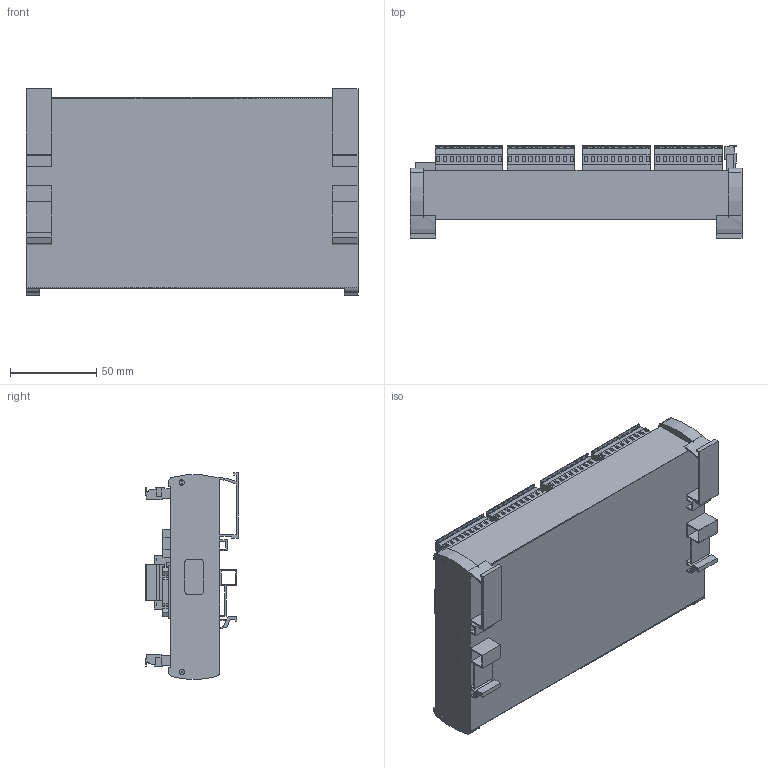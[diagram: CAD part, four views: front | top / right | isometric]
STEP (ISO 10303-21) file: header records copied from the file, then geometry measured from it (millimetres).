
FILE_DESCRIPTION (( 'STEP AP203' ), '1' );
FILE_NAME ('ECI0064C.STEP', '2023-11-14T03:33:31', ( '' ), ( '' ), 'SwSTEP 2.0', 'SolidWorks 2019', '' );
FILE_SCHEMA (( 'CONFIG_CONTROL_DESIGN' ));
Length unit declared in the file: millimetre
Products named in the file (1): ECI0064C
Bounding box: 193 x 53.81 x 120.18 mm (x, y, z)
Volume: 638319.9 mm3; surface area: 90504.9 mm2
Topology: 3 solids, 3 shells, 1275 faces, 3685 edges, 2447 vertices
Faces by surface type: plane 1034, cylinder 241
Entity records: 42067 total; most frequent: CARTESIAN_POINT 7408, ORIENTED_EDGE 7370, DIRECTION 6892, EDGE_CURVE 3685, LINE 3030, VECTOR 3030, VERTEX_POINT 2447, AXIS2_PLACEMENT_3D 1931
